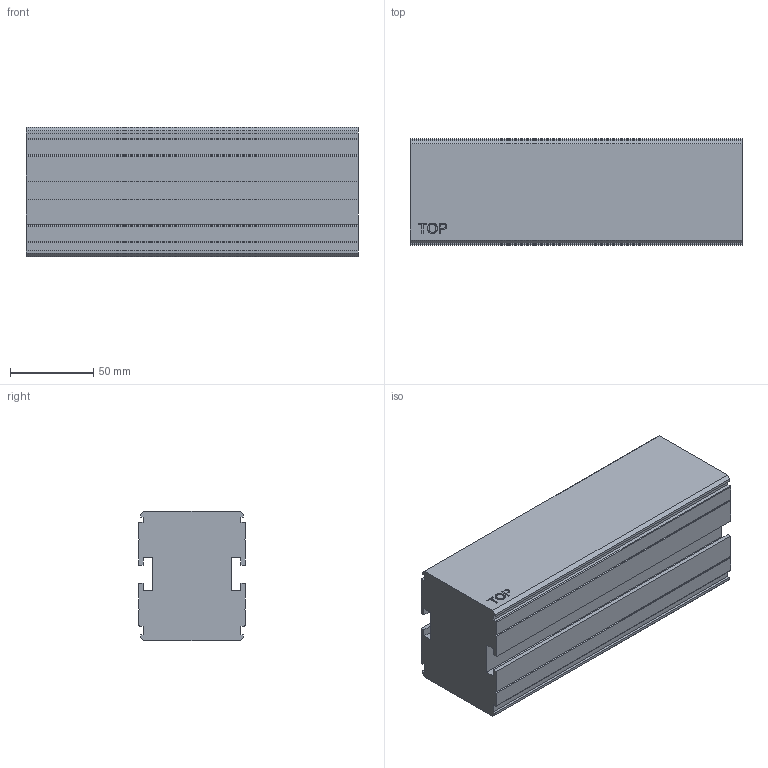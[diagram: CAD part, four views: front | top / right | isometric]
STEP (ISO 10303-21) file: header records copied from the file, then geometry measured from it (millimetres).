
FILE_DESCRIPTION((''),'2;1');
FILE_NAME('C:\Vault Klient\Projekt\Koncept konstruktion\Serie 620 Balk\620-1000.stp','2009-11-26T14:37:53',('Mathias'),(''),'Autodesk Inventor 2010','Autodesk Inventor 2010','');
FILE_SCHEMA(('AUTOMOTIVE_DESIGN { 1 0 10303 214 1 1 1 1 }'));
Length unit declared in the file: millimetre
Products named in the file (1): 620-1000
Bounding box: 200 x 64 x 78 mm (x, y, z)
Volume: 930084.1 mm3; surface area: 81411.9 mm2
Topology: 1 solids, 1 shells, 93 faces, 258 edges, 172 vertices
Faces by surface type: plane 75, bspline 14, cylinder 4
Entity records: 3067 total; most frequent: CARTESIAN_POINT 718, ORIENTED_EDGE 516, DIRECTION 398, EDGE_CURVE 258, VECTOR 222, LINE 222, VERTEX_POINT 172, EDGE_LOOP 98
